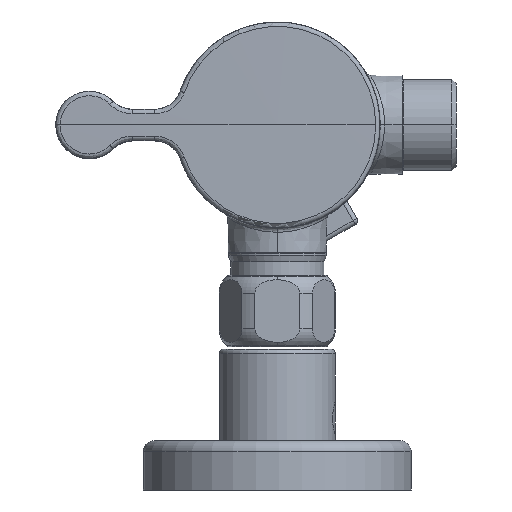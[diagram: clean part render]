
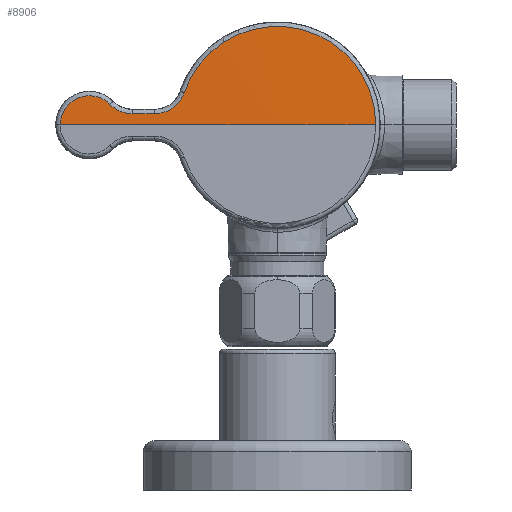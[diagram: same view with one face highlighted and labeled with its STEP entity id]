
A CAD part, left-side view. The second image highlights one B-rep face of the part: STEP entity #8906.
In plain terms, the highlighted spherical face has radius 2000 mm.
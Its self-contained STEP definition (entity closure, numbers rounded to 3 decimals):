
#3392=CARTESIAN_POINT('',(-147.011,48.524,
0.));
#3394=CARTESIAN_POINT('',(1852.4,0.,0.));
#3395=DIRECTION('',(0.,0.,1.));
#3396=DIRECTION('',(-1.,0.024,0.));
#3397=AXIS2_PLACEMENT_3D('',#3394,#3395,#3396);
#3399=CARTESIAN_POINT('',(1852.4,0.,0.));
#3400=DIRECTION('',(0.,0.,-1.));
#3401=DIRECTION('',(-1.,-0.011,0.));
#3402=AXIS2_PLACEMENT_3D('',#3399,#3400,#3401);
#3432=CARTESIAN_POINT('',(-147.011,48.524,
0.));
#3433=CARTESIAN_POINT('',(-147.011,48.524,
0.202));
#3434=CARTESIAN_POINT('',(-147.012,48.505,
0.607));
#3435=CARTESIAN_POINT('',(-147.013,48.42,1.212));
#3436=CARTESIAN_POINT('',(-147.016,48.278,1.808));
#3437=CARTESIAN_POINT('',(-147.021,48.08,2.388));
#3438=CARTESIAN_POINT('',(-147.026,47.829,2.947));
#3439=CARTESIAN_POINT('',(-147.032,47.526,3.48));
#3440=CARTESIAN_POINT('',(-147.04,47.175,3.982));
#3441=CARTESIAN_POINT('',(-147.048,46.778,4.448));
#3442=CARTESIAN_POINT('',(-147.057,46.339,4.876));
#3443=CARTESIAN_POINT('',(-147.067,45.862,5.26));
#3444=CARTESIAN_POINT('',(-147.078,45.35,5.598));
#3445=CARTESIAN_POINT('',(-147.089,44.809,5.886));
#3446=CARTESIAN_POINT('',(-147.101,44.244,6.122));
#3447=CARTESIAN_POINT('',(-147.114,43.659,6.303));
#3448=CARTESIAN_POINT('',(-147.126,43.058,6.43));
#3449=CARTESIAN_POINT('',(-147.139,42.448,6.499));
#3450=CARTESIAN_POINT('',(-147.152,41.838,6.51));
#3451=CARTESIAN_POINT('',(-147.164,41.238,6.465));
#3452=CARTESIAN_POINT('',(-147.177,40.66,6.368));
#3453=CARTESIAN_POINT('',(-147.188,40.109,6.224));
#3454=CARTESIAN_POINT('',(-147.199,39.586,6.039));
#3455=CARTESIAN_POINT('',(-147.209,39.093,5.815));
#3456=CARTESIAN_POINT('',(-147.219,38.627,5.556));
#3457=CARTESIAN_POINT('',(-147.228,38.188,5.263));
#3458=CARTESIAN_POINT('',(-147.237,37.777,4.937));
#3459=CARTESIAN_POINT('',(-147.242,37.523,4.7));
#3460=CARTESIAN_POINT('',(-147.245,37.4,4.576));
#3462=CARTESIAN_POINT('',(-147.245,37.4,4.576));
#3463=CARTESIAN_POINT('',(-147.248,37.254,4.429));
#3464=CARTESIAN_POINT('',(-147.254,36.95,4.148));
#3465=CARTESIAN_POINT('',(-147.264,36.457,3.768));
#3466=CARTESIAN_POINT('',(-147.274,35.933,3.433));
#3467=CARTESIAN_POINT('',(-147.285,35.381,3.146));
#3468=CARTESIAN_POINT('',(-147.295,34.806,2.909));
#3469=CARTESIAN_POINT('',(-147.306,34.212,2.724));
#3470=CARTESIAN_POINT('',(-147.316,33.603,2.592));
#3471=CARTESIAN_POINT('',(-147.326,33.,2.517));
#3472=CARTESIAN_POINT('',(-147.333,32.614,2.501));
#3473=CARTESIAN_POINT('',(-147.336,32.425,2.501));
#3475=CARTESIAN_POINT('',(1852.4,0.,2.501));
#3476=DIRECTION('',(0.,0.,1.));
#3477=DIRECTION('',(-1.,0.016,0.));
#3478=AXIS2_PLACEMENT_3D('',#3475,#3476,#3477);
#3480=CARTESIAN_POINT('',(-147.411,27.414,2.501));
#3481=CARTESIAN_POINT('',(-147.413,27.205,2.501));
#3482=CARTESIAN_POINT('',(-147.419,26.792,2.52));
#3483=CARTESIAN_POINT('',(-147.427,26.181,2.602));
#3484=CARTESIAN_POINT('',(-147.434,25.593,2.733));
#3485=CARTESIAN_POINT('',(-147.441,25.036,2.909));
#3486=CARTESIAN_POINT('',(-147.447,24.518,3.12));
#3487=CARTESIAN_POINT('',(-147.453,24.039,3.361));
#3488=CARTESIAN_POINT('',(-147.458,23.59,3.63));
#3489=CARTESIAN_POINT('',(-147.462,23.167,3.927));
#3490=CARTESIAN_POINT('',(-147.466,22.772,4.252));
#3491=CARTESIAN_POINT('',(-147.469,22.404,4.601));
#3492=CARTESIAN_POINT('',(-147.472,22.062,4.977));
#3493=CARTESIAN_POINT('',(-147.475,21.746,5.38));
#3494=CARTESIAN_POINT('',(-147.476,21.457,5.809));
#3495=CARTESIAN_POINT('',(-147.478,21.2,6.26));
#3496=CARTESIAN_POINT('',(-147.479,20.977,6.729));
#3497=CARTESIAN_POINT('',(-147.479,20.853,7.048));
#3498=CARTESIAN_POINT('',(-147.479,20.796,7.211));
#3500=CARTESIAN_POINT('',(-147.479,0.,0.));
#3501=DIRECTION('',(1.,0.,0.));
#3502=DIRECTION('',(0.,0.945,0.328));
#3503=AXIS2_PLACEMENT_3D('',#3500,#3501,#3502);
#4162=VERTEX_POINT('',#3392);
#4164=VERTEX_POINT('',#3460);
#4166=VERTEX_POINT('',#3473);
#4169=CARTESIAN_POINT('',(-147.411,27.414,2.501));
#4170=VERTEX_POINT('',#4169);
#4172=VERTEX_POINT('',#3498);
#4173=CARTESIAN_POINT('',(-147.479,-22.011,
0.));
#4174=VERTEX_POINT('',#4173);
#4175=CARTESIAN_POINT('',(-147.6,0.,0.));
#4176=VERTEX_POINT('',#4175);
#8892=CARTESIAN_POINT('',(1852.4,0.,0.));
#8893=DIRECTION('',(1.,0.,0.));
#8894=DIRECTION('',(0.,1.,0.));
#8895=AXIS2_PLACEMENT_3D('',#8892,#8893,#8894);
#8896=SPHERICAL_SURFACE('',#8895,2000.);
#8897=ORIENTED_EDGE('',*,*,#7860,.T.);
#8898=ORIENTED_EDGE('',*,*,#7931,.T.);
#8899=ORIENTED_EDGE('',*,*,#8028,.T.);
#8900=ORIENTED_EDGE('',*,*,#8087,.T.);
#8901=ORIENTED_EDGE('',*,*,#8785,.T.);
#8902=ORIENTED_EDGE('',*,*,#8805,.T.);
#8903=ORIENTED_EDGE('',*,*,#8803,.F.);
#8904=EDGE_LOOP('',(#8897,#8898,#8899,#8900,#8901,#8902,#8903));
#8905=FACE_OUTER_BOUND('',#8904,.F.);
#8906=ADVANCED_FACE('',(#8905),#8896,.T.);
#3398=CIRCLE('',#3397,2000.);
#3403=CIRCLE('',#3402,2000.);
#3461=B_SPLINE_CURVE_WITH_KNOTS('',3,(#3432,#3433,#3434,#3435,#3436,#3437,#3438,
#3439,#3440,#3441,#3442,#3443,#3444,#3445,#3446,#3447,#3448,#3449,#3450,#3451,
#3452,#3453,#3454,#3455,#3456,#3457,#3458,#3459,#3460),.UNSPECIFIED.,.F.,.F.,(4,
1,1,1,1,1,1,1,1,1,1,1,1,1,1,1,1,1,1,1,1,1,1,1,1,1,4),(0.,0.038,
0.077,0.115,0.154,0.192,
0.231,0.269,0.308,0.346,
0.385,0.423,0.462,0.5,0.538,
0.577,0.615,0.654,0.692,
0.731,0.769,0.808,0.846,
0.885,0.923,0.962,1.),.UNSPECIFIED.);
#3474=B_SPLINE_CURVE_WITH_KNOTS('',3,(#3462,#3463,#3464,#3465,#3466,#3467,#3468,
#3469,#3470,#3471,#3472,#3473),.UNSPECIFIED.,.F.,.F.,(4,1,1,1,1,1,1,1,1,4),
(0.,0.111,0.222,0.333,0.444,
0.556,0.667,0.778,0.889,1.),
.UNSPECIFIED.);
#3479=CIRCLE('',#3478,1999.998);
#3499=B_SPLINE_CURVE_WITH_KNOTS('',3,(#3480,#3481,#3482,#3483,#3484,#3485,#3486,
#3487,#3488,#3489,#3490,#3491,#3492,#3493,#3494,#3495,#3496,#3497,#3498),
.UNSPECIFIED.,.F.,.F.,(4,1,1,1,1,1,1,1,1,1,1,1,1,1,1,1,4),(0.,0.063,0.125,
0.188,0.25,0.313,0.375,0.438,0.5,0.563,0.625,0.688,
0.75,0.813,0.875,0.938,1.),.UNSPECIFIED.);
#3504=CIRCLE('',#3503,22.011);
#7860=EDGE_CURVE('',#4162,#4164,#3461,.T.);
#7931=EDGE_CURVE('',#4164,#4166,#3474,.T.);
#8028=EDGE_CURVE('',#4166,#4170,#3479,.T.);
#8087=EDGE_CURVE('',#4170,#4172,#3499,.T.);
#8785=EDGE_CURVE('',#4172,#4174,#3504,.T.);
#8803=EDGE_CURVE('',#4162,#4176,#3398,.T.);
#8805=EDGE_CURVE('',#4174,#4176,#3403,.T.);
